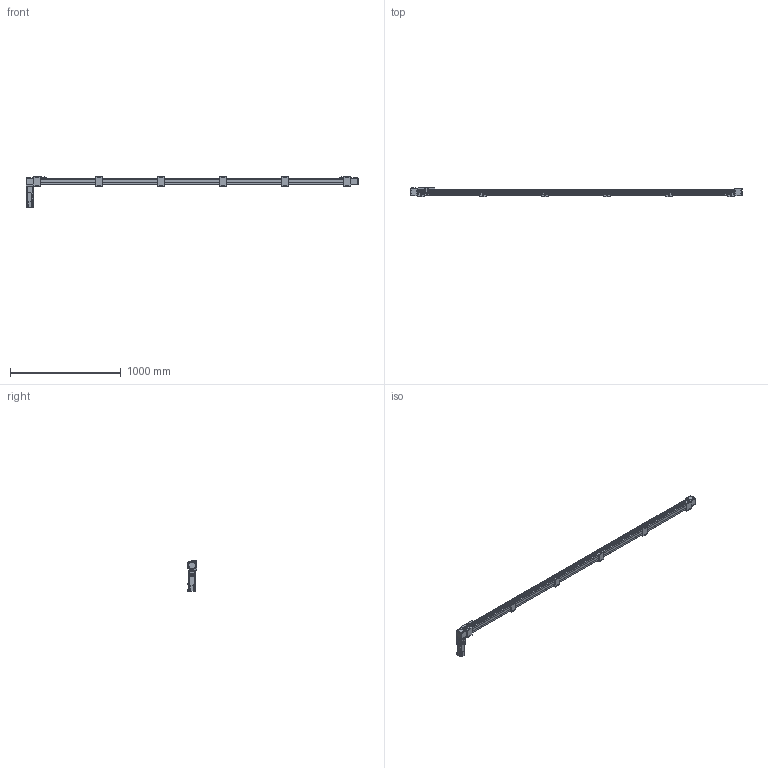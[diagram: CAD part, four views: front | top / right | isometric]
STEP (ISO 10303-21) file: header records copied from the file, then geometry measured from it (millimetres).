
FILE_DESCRIPTION(/* description */ ('STEP AP214'),/* implementation_level */ '2;1');
FILE_NAME(/* name */ 'SK60-P13-S2700-BR-T40-C1-N(0)',/* time_stamp */ '2023-04-06T04:03:23+02:00',/* author */ ('License CC BY-ND 4.0'),/* organization */ ('CADENAS'),/* preprocessor_version */ 'ST-DEVELOPER v19.3',/* originating_system */ 'PARTsolutions',/* authorisation */ ' ');
FILE_SCHEMA (('AUTOMOTIVE_DESIGN {1 0 10303 214 3 1 1}'));
Length unit declared in the file: millimetre
Products named in the file (11): SK60-P13-S2700-BR-T40-C1-N(0); PSC140-sensor; SK60-S450_seat; SK60-S450-BL-C1_slider; SK60_body3; SK60_body6; SK60-BL_body2; T40-p1; SK60_body5; SK60_body4; SK60-S2700-BR-C1_body
Assembly tree (21 placements, depth 2):
  SK60-P13-S2700-BR-T40-C1-N(0)
    PSC140-sensor  x3
    SK60-S450_seat  x6
    SK60-S450-BL-C1_slider
    SK60_body3  x3
    SK60_body6  x2
    SK60-BL_body2  x2
    T40-p1
    SK60_body5
    SK60_body4
    SK60-S2700-BR-C1_body
Bounding box: 3000 x 90 x 279.1 mm (x, y, z)
Volume: 10807201 mm3; surface area: 1314217.5 mm2
Topology: 21 solids, 25 shells, 1010 faces, 2501 edges, 1650 vertices
Faces by surface type: plane 640, cylinder 330, cone 38, torus 2
Full cylindrical faces by diameter (mm): 2.8 x3, 3.3 x4, 4.2 x8, 4.5 x26, 4.6 x3, 4.917 x32, 5 x2, 5.478 x4, 5.5 x35, 6.5 x12, 8 x4, 8.5 x4, 9.988 x4, 10 x24, 13.556 x1, 14 x1, 14.586 x1, 19.692 x1, 38.432 x2, 43 x1, 44 x3, 47 x2, 50 x2
Entity records: 19403 total; most frequent: DIRECTION 3300, CARTESIAN_POINT 3293, ORIENTED_EDGE 3050, EDGE_CURVE 1525, AXIS2_PLACEMENT_3D 1104, LINE 1092, VECTOR 1092, VERTEX_POINT 1077
